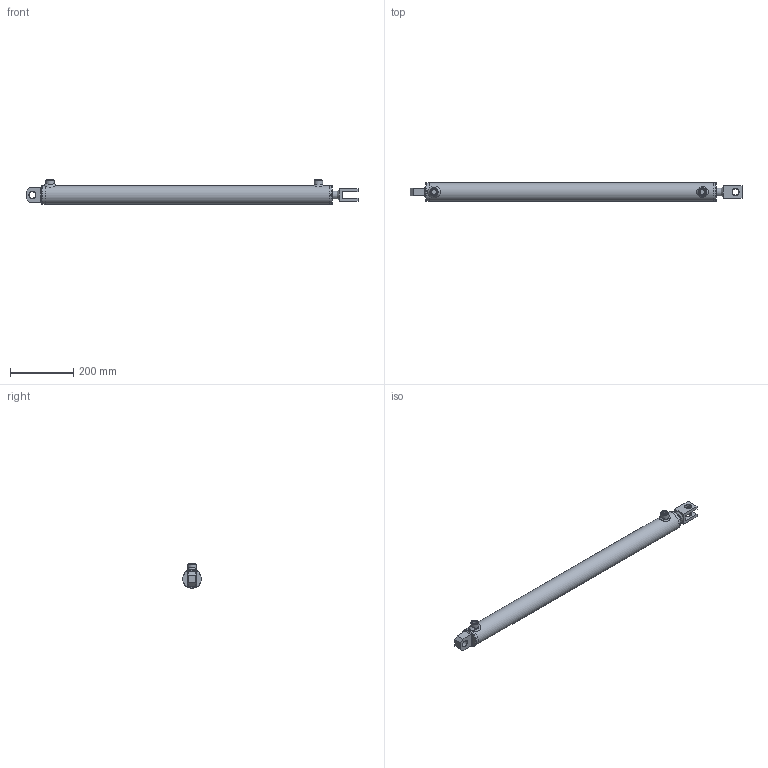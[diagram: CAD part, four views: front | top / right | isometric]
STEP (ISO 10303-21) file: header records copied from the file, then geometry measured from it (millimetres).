
FILE_DESCRIPTION( ( 'Unknown' ), '1' );
FILE_NAME( 'E:/LIBRERIA_3d/CILINDRI/HM5/HM52250800.stp', 'Unknown', ( 'Unknown' ), ( 'Unknown' ), 'PSStep 17.0.49', 'Unknown', ' ' );
FILE_SCHEMA( ( 'AUTOMOTIVE_DESIGN { 1 0 10303 214 1 1 1 1 }' ) );
Length unit declared in the file: millimetre
Products named in the file (27): STL2500800-oa6; Saldatura d'angolo 1-oa4; FTM2500800-oa5; CBSC220600; CG06005025; CT00050020; HM02250800; Saldatura con preparazione 1-oa2; Saldatura d'angolo 1-oa3; CF00050060; CBS0600000; CDA0002015; APG0600000; SBL2520800; Assem1; COF2000000; Saldatura d'angolo 1-oa0; Saldatura d'angolo 2-oa1; CFS0000020; CSCS004010
Assembly tree (20 placements, depth 4):
  Saldatura d'angolo 1-oa4
  Saldatura d'angolo 1-oa4
  Saldatura d'angolo 1-oa3
  Saldatura d'angolo 1-oa3
  Assem1
    COF2000000
    CFS0000020
    CSCS004010  x2
    HM02250800
      Saldatura con preparazione 1-oa2
      Saldatura con preparazione 1-oa2
      CF00050060
      CBS0600000
      CDA0002015
      APG0600000  x2
      SBL2520800
      CT00050020
        CT00050020
      CG06005025
        CG06005025
      STL2500800-oa6
        FTM2500800-oa5
        CBSC220600
Bounding box: 1050 x 60 x 79 mm (x, y, z)
Volume: 1483238.2 mm3; surface area: 483816.4 mm2
Topology: 24 solids, 24 shells, 324 faces, 695 edges, 428 vertices
Faces by surface type: plane 152, cylinder 68, cone 48, torus 38, bspline 18
Full cylindrical faces by diameter (mm): 4 x2, 4.25 x3, 5 x2, 7 x2, 14.95 x2, 16 x2, 16.6 x2, 19.4 x1, 20 x5, 20.25 x3, 22 x2, 24.5 x1, 25 x6, 26 x2, 27 x1, 28 x1, 30 x1, 33.6 x1, 34 x1, 35 x1, 45 x1, 45.41 x2, 48.66 x2, 49.9 x1, 50 x1, 50.3 x1, 50.5 x1, 50.6 x1, 51 x1, 52 x3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
Entity records: 12816 total; most frequent: CARTESIAN_POINT 4527, DIRECTION 1260, ORIENTED_EDGE 928, AXIS2_PLACEMENT_3D 514, EDGE_LOOP 498, EDGE_CURVE 464, FACE_OUTER_BOUND 406, VERTEX_POINT 359
